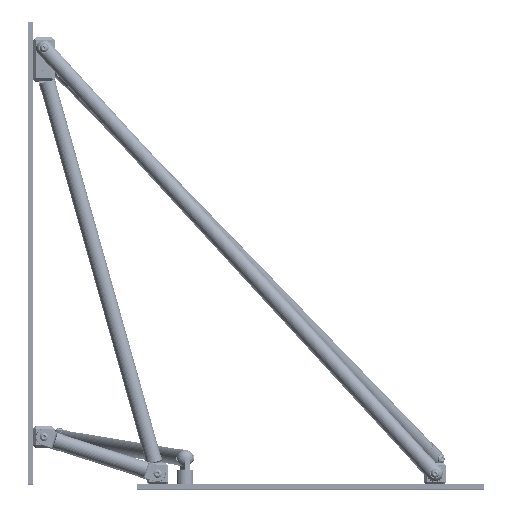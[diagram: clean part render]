
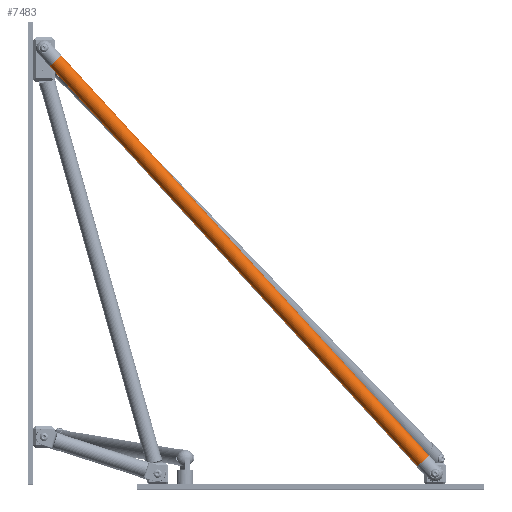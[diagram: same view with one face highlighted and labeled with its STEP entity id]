
A CAD part, top view. The second image highlights one B-rep face of the part: STEP entity #7483.
In plain terms, the highlighted cylindrical face has radius 10.541 mm (diameter 21.082 mm), a partial arc.
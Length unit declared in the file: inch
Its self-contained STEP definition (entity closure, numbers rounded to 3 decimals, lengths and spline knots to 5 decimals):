
#1846 = CARTESIAN_POINT ( 'NONE',  ( -28.6527, 0., 0. ) ) ;
#1847 = VECTOR ( 'NONE', #14415, 39.37008 ) ;
#2003 = DIRECTION ( 'NONE',  ( 0., 0., -1. ) ) ;
#2903 = LINE ( 'NONE', #11466, #1847 ) ;
#3534 = CYLINDRICAL_SURFACE ( 'NONE', #8014, 0.415 ) ;
#4697 = DIRECTION ( 'NONE',  ( 0., 0., -1. ) ) ;
#5260 = DIRECTION ( 'NONE',  ( 0., 0., -1. ) ) ;
#7483 = ADVANCED_FACE ( 'NONE', ( #21402 ), #3534, .T. ) ;
#8014 = AXIS2_PLACEMENT_3D ( 'NONE', #31664, #25326, #4697 ) ;
#8572 = VERTEX_POINT ( 'NONE', #8873 ) ;
#8873 = CARTESIAN_POINT ( 'NONE',  ( -28.6527, 0., 0.415 ) ) ;
#9684 = EDGE_CURVE ( 'NONE', #8572, #18614, #19610, .T. ) ;
#10588 = CARTESIAN_POINT ( 'NONE',  ( 0., 0., 0.415 ) ) ;
#10821 = VERTEX_POINT ( 'NONE', #40568 ) ;
#11466 = CARTESIAN_POINT ( 'NONE',  ( 0., 0., -0.415 ) ) ;
#14415 = DIRECTION ( 'NONE',  ( 1., 0., 0. ) ) ;
#17303 = DIRECTION ( 'NONE',  ( 1., 0., 0. ) ) ;
#18614 = VERTEX_POINT ( 'NONE', #31996 ) ;
#19610 = LINE ( 'NONE', #10588, #27591 ) ;
#21402 = FACE_OUTER_BOUND ( 'NONE', #41534, .T. ) ;
#21819 = CARTESIAN_POINT ( 'NONE',  ( -28.6527, 0., -0.415 ) ) ;
#21960 = ORIENTED_EDGE ( 'NONE', *, *, #22122, .T. ) ;
#22122 = EDGE_CURVE ( 'NONE', #27307, #10821, #2903, .T. ) ;
#22160 = DIRECTION ( 'NONE',  ( 1., 0., 0. ) ) ;
#23773 = EDGE_CURVE ( 'NONE', #8572, #27307, #33524, .T. ) ;
#25326 = DIRECTION ( 'NONE',  ( 1., 0., 0. ) ) ;
#25454 = DIRECTION ( 'NONE',  ( 1., 0., 0. ) ) ;
#27307 = VERTEX_POINT ( 'NONE', #21819 ) ;
#27591 = VECTOR ( 'NONE', #17303, 39.37008 ) ;
#29642 = CIRCLE ( 'NONE', #39885, 0.415 ) ;
#31204 = ORIENTED_EDGE ( 'NONE', *, *, #23773, .T. ) ;
#31664 = CARTESIAN_POINT ( 'NONE',  ( 0., 0., 0. ) ) ;
#31996 = CARTESIAN_POINT ( 'NONE',  ( 0., 0., 0.415 ) ) ;
#33524 = CIRCLE ( 'NONE', #40660, 0.415 ) ;
#34179 = ORIENTED_EDGE ( 'NONE', *, *, #9684, .F. ) ;
#39885 = AXIS2_PLACEMENT_3D ( 'NONE', #42408, #22160, #2003 ) ;
#40568 = CARTESIAN_POINT ( 'NONE',  ( 0., 0., -0.415 ) ) ;
#40660 = AXIS2_PLACEMENT_3D ( 'NONE', #1846, #25454, #5260 ) ;
#41534 = EDGE_LOOP ( 'NONE', ( #34179, #31204, #21960, #41724 ) ) ;
#41724 = ORIENTED_EDGE ( 'NONE', *, *, #42776, .F. ) ;
#42408 = CARTESIAN_POINT ( 'NONE',  ( 0., 0., 0. ) ) ;
#42776 = EDGE_CURVE ( 'NONE', #18614, #10821, #29642, .T. ) ;
